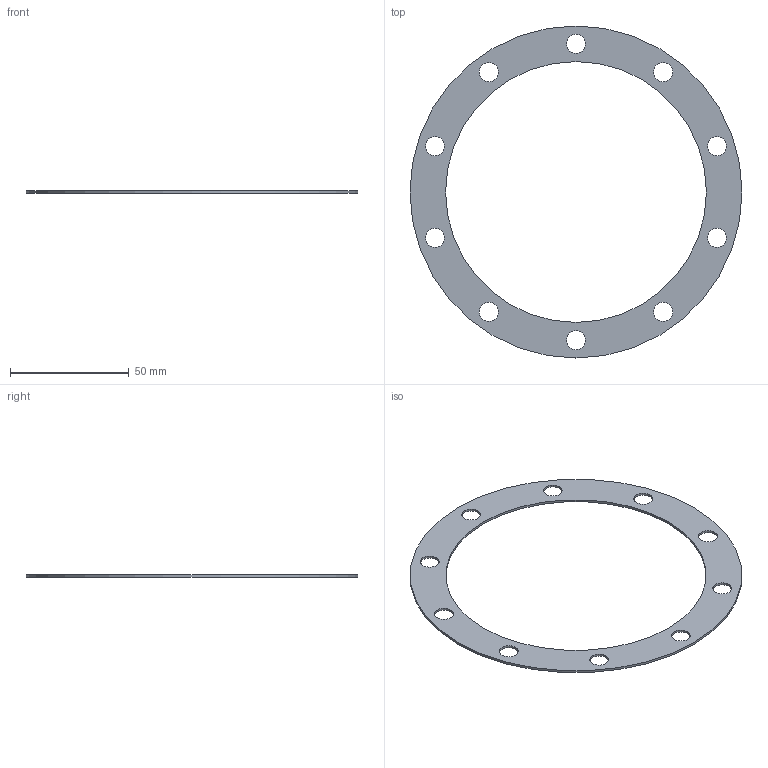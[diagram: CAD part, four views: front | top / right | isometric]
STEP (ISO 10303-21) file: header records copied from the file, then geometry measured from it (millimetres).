
FILE_DESCRIPTION(/* description */ (''),/* implementation_level */ '2;1');
FILE_NAME(/* name */ 'G:\YandexDisk\Работа\Inventor\Универ\ОАП\Лабораторные работы\ЛР6 Создание сборок\Редуктор\stp\Прокладка 4.stp',/* time_stamp */ '2023-11-17T06:36:29+03:00',/* author */ ('34740'),/* organization */ (''),/* preprocessor_version */ 'ST-DEVELOPER v18.1',/* originating_system */ 'Autodesk Inventor 2022',/* authorisation */ '');
FILE_SCHEMA (('AUTOMOTIVE_DESIGN { 1 0 10303 214 3 1 1 }'));
Length unit declared in the file: millimetre
Products named in the file (1): Прокладка 2
Bounding box: 140 x 140 x 1 mm (x, y, z)
Volume: 5387.8 mm3; surface area: 11812.4 mm2
Topology: 1 solids, 1 shells, 14 faces, 36 edges, 24 vertices
Faces by surface type: cylinder 12, plane 2
Full cylindrical faces by diameter (mm): 8 x10, 110 x1, 140 x1
Entity records: 529 total; most frequent: DIRECTION 90, CARTESIAN_POINT 75, ORIENTED_EDGE 72, AXIS2_PLACEMENT_3D 39, EDGE_LOOP 36, EDGE_CURVE 36, CIRCLE 24, VERTEX_POINT 24
